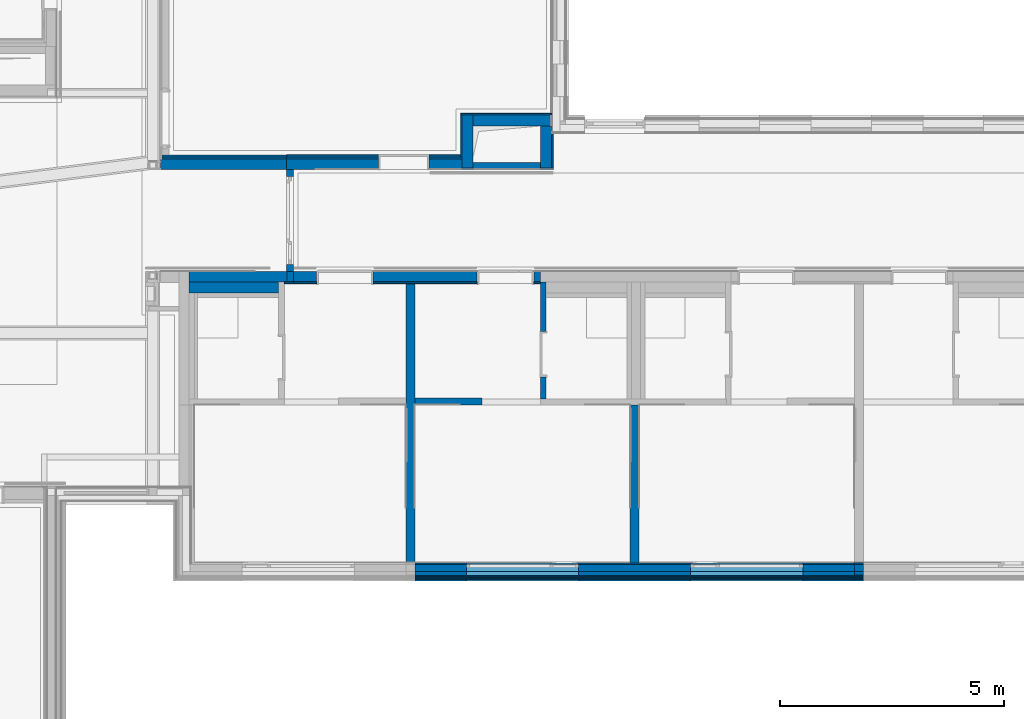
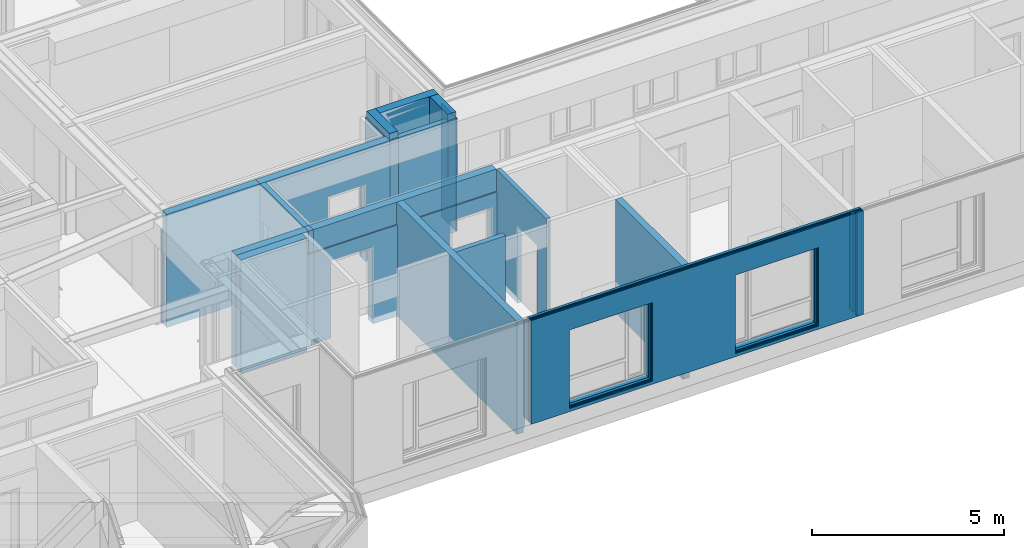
# One storey, part 45 of 207: 40 walls, 23 openings.
"""IFC4 building model written with IfcOpenShell, lengths in metres."""

from ifc_helpers import new_model, entity, si_unit, converted_unit, derived_unit, frame, frame_2d, origin, origin_with_axes, place, context, subcontext, project, spatial, polyline, rectangle, outline, extrude, material, element, save


model = new_model("IFC4")

# Units and contexts
model_context = context("Model", 3, precision=1e-05, world=origin())
body_context = subcontext(model_context, "Body", "Model", "MODEL_VIEW")
ifc_project = project(units=[si_unit("LENGTHUNIT", "METRE"), si_unit("AREAUNIT", "SQUARE_METRE"), si_unit("VOLUMEUNIT", "CUBIC_METRE"), si_unit("MASSUNIT", "GRAM", prefix="KILO"), converted_unit("PLANEANGLEUNIT", "DEGREE", entity("IfcPlaneAngleMeasure", 0.0174532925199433), si_unit("PLANEANGLEUNIT", "RADIAN"), dimensions=[0, 0, 0, 0, 0, 0, 0]), derived_unit("THERMALTRANSMITTANCEUNIT", [(si_unit("POWERUNIT", "WATT"), 1), (si_unit("THERMODYNAMICTEMPERATUREUNIT", "KELVIN"), -1), (si_unit("LENGTHUNIT", "METRE"), -2)]), derived_unit("VOLUMETRICFLOWRATEUNIT", [(si_unit("LENGTHUNIT", "METRE"), 3), (converted_unit("TIMEUNIT", "hour", entity("IfcTimeMeasure", 3600.0), si_unit("TIMEUNIT", "SECOND"), dimensions=[0, 0, 1, 0, 0, 0, 0]), -1), (si_unit("LENGTHUNIT", "METRE"), -1)])], contexts=[model_context])

# Site, building, storey
site_placement = place(None, origin())
site = spatial("IfcSite", under=ifc_project, at=site_placement, Name="Psychiatrie Neubau Wunstorf", CompositionType="ELEMENT")
building_placement = place(site_placement, origin())
building = spatial("IfcBuilding", under=site, at=building_placement, Name="Neubau H2 Stationsgebäude", CompositionType="ELEMENT")
storey_placement = place(building_placement, frame((0.0, 0.0, -0.2)))
storey = spatial("IfcBuildingStorey", under=building, at=storey_placement, Name="H2 Ebene 0", CompositionType="ELEMENT", Elevation=-0.2)

# Walls
ifc_material_1 = material(Name="WA-LB")
wall_1_placement = place(storey_placement, frame((86.1, -1.16399999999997, 0.5), z_axis=(0.0, 0.0, 1.0), x_axis=(-1.0, 0.0, 0.0)))
element("IfcWall", 1, at=wall_1_placement, inside=storey, material=ifc_material_1, context=body_context, shape_type="SweptSolid", body=[
    extrude(rectangle(XDim=0.2, YDim=0.036, at=frame_2d((0.1, 0.018), x_axis=(1.0, 0.0))), origin_with_axes(), (0.0, 0.0, 1.0), 3.1),
])
ifc_material_2 = material(Name="WA-HD")
wall_2_placement = place(storey_placement, frame((86.1, -1.19999999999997, 0.5), z_axis=(0.0, 0.0, 1.0), x_axis=(-1.0, 0.0, 0.0)))
element("IfcWall", 2, at=wall_2_placement, inside=storey, material=ifc_material_2, context=body_context, shape_type="SweptSolid", body=[
    extrude(rectangle(XDim=0.2, YDim=0.16, at=frame_2d((0.1, 0.08), x_axis=(1.0, 0.0))), origin_with_axes(), (0.0, 0.0, 1.0), 3.1),
])
ifc_material_3 = material(Name="WA-DL")
wall_3_placement = place(storey_placement, frame((86.1, -1.35999999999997, 0.5), z_axis=(0.0, 0.0, 1.0), x_axis=(-1.0, 0.0, 0.0)))
element("IfcWall", 3, at=wall_3_placement, inside=storey, material=ifc_material_3, context=body_context, shape_type="SweptSolid", body=[
    extrude(rectangle(XDim=0.2, YDim=0.08, at=frame_2d((0.1, 0.04), x_axis=(1.0, 0.0))), origin_with_axes(), (0.0, 0.0, 1.0), 3.3),
])
ifc_material_4 = material(Name="WA-TP")
wall_4_placement = place(storey_placement, frame((86.1, -1.43999999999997, 0.5), z_axis=(0.0, 0.0, 1.0), x_axis=(-1.0, 0.0, 0.0)))
element("IfcWall", 4, at=wall_4_placement, inside=storey, material=ifc_material_4, context=body_context, shape_type="SweptSolid", body=[
    extrude(rectangle(XDim=0.2, YDim=0.036, at=frame_2d((0.1, 0.018), x_axis=(1.0, 0.0))), origin_with_axes(), (0.0, 0.0, 1.0), 3.3),
])
ifc_material_5 = material(Name="WA-KL")
wall_5_placement = place(storey_placement, frame((86.1, -1.47599999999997, 0.5), z_axis=(0.0, 0.0, 1.0), x_axis=(-1.0, 0.0, 0.0)))
element("IfcWall", 5, at=wall_5_placement, inside=storey, material=ifc_material_5, context=body_context, shape_type="SweptSolid", body=[
    extrude(rectangle(XDim=0.2, YDim=0.024, at=frame_2d((0.1, 0.012), x_axis=(1.0, 0.0))), origin_with_axes(), (0.0, 0.0, 1.0), 3.3),
])
ifc_material_6 = material(Name="WA-TL")
wall_6_placement = place(storey_placement, frame((86.1, -1.49999999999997, 0.5), z_axis=(0.0, 0.0, 1.0), x_axis=(-1.0, 0.0, 0.0)))
element("IfcWall", 6, at=wall_6_placement, inside=storey, material=ifc_material_6, context=body_context, shape_type="SweptSolid", body=[
    extrude(rectangle(XDim=0.2, YDim=0.024, at=frame_2d((0.1, 0.012), x_axis=(1.0, 0.0))), origin_with_axes(), (0.0, 0.0, 1.0), 3.3),
])
ifc_material_7 = material(Name="WA-HS")
wall_7_placement = place(storey_placement, frame((86.1, -1.52399999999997, 0.5), z_axis=(0.0, 0.0, 1.0), x_axis=(-1.0, 0.0, 0.0)))
element("IfcWall", 7, at=wall_7_placement, inside=storey, material=ifc_material_7, context=body_context, shape_type="SweptSolid", body=[
    extrude(rectangle(XDim=0.2, YDim=0.042, at=frame_2d((0.1, 0.021), x_axis=(1.0, 0.0))), origin_with_axes(), (0.0, 0.0, 1.0), 3.3),
])

# Wall, openings
ifc_material_8 = material(Name="WA-LB")
wall_8_placement = place(storey_placement, frame((85.9, -1.16399999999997, 0.5), z_axis=(0.0, 0.0, 1.0), x_axis=(-1.0, 7.42444654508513e-16, 0.0)))
wall_8 = element("IfcWall", 8, at=wall_8_placement, inside=storey, material=ifc_material_8, context=body_context, shape_type="SweptSolid", body=[
    extrude(rectangle(XDim=9.8, YDim=0.036, at=frame_2d((4.9, 0.018), x_axis=(1.0, 0.0))), origin_with_axes(), (0.0, 0.0, 1.0), 3.1),
])
opening_1_placement = place(wall_8_placement, frame((1.14999995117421, 0.0, 0.1), z_axis=(0.0, 1.0, 0.0), x_axis=(0.0, 0.0, 1.0)))
element("IfcOpeningElement", 9, at=opening_1_placement, cuts=wall_8, Name="Fensteröffnung", ObjectType="Opening", context=body_context, shape_type="SweptSolid", body=[
    extrude(outline(polyline([(2.5, 2.5), (2.5, 0.0), (0.0, 0.0), (0.0, 2.5), (2.5, 2.5)])), origin_with_axes(), (0.0, 0.0, 1.0), 0.036),
])
opening_2_placement = place(wall_8_placement, frame((6.14999995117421, 0.0, 0.1), z_axis=(0.0, 1.0, 0.0), x_axis=(0.0, 0.0, 1.0)))
element("IfcOpeningElement", 10, at=opening_2_placement, cuts=wall_8, Name="Fensteröffnung", ObjectType="Opening", context=body_context, shape_type="SweptSolid", body=[
    extrude(outline(polyline([(2.5, 2.5), (2.5, 0.0), (0.0, 0.0), (0.0, 2.5), (2.5, 2.5)])), origin_with_axes(), (0.0, 0.0, 1.0), 0.036),
])

ifc_material_9 = material(Name="WA-HD")
wall_9_placement = place(storey_placement, frame((85.9, -1.19999999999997, 0.5), z_axis=(0.0, 0.0, 1.0), x_axis=(-1.0, 7.42444654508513e-16, 0.0)))
wall_9 = element("IfcWall", 11, at=wall_9_placement, inside=storey, material=ifc_material_9, context=body_context, shape_type="SweptSolid", body=[
    extrude(rectangle(XDim=9.8, YDim=0.16, at=frame_2d((4.9, 0.08), x_axis=(1.0, 0.0))), origin_with_axes(), (0.0, 0.0, 1.0), 3.1),
])
opening_3_placement = place(wall_9_placement, frame((1.14999995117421, 0.0, 0.1), z_axis=(-1.4210854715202e-15, 1.0, 0.0), x_axis=(0.0, 0.0, 1.0)))
element("IfcOpeningElement", 12, at=opening_3_placement, cuts=wall_9, Name="Fensteröffnung", ObjectType="Opening", context=body_context, shape_type="SweptSolid", body=[
    extrude(outline(polyline([(2.5, 2.5), (2.5, 0.0), (0.0, 0.0), (0.0, 2.5), (2.5, 2.5)])), origin_with_axes(), (0.0, 0.0, 1.0), 0.16),
])
opening_4_placement = place(wall_9_placement, frame((6.14999995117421, 0.0, 0.1), z_axis=(0.0, 1.0, 0.0), x_axis=(0.0, 0.0, 1.0)))
element("IfcOpeningElement", 13, at=opening_4_placement, cuts=wall_9, Name="Fensteröffnung", ObjectType="Opening", context=body_context, shape_type="SweptSolid", body=[
    extrude(outline(polyline([(2.5, 2.5), (2.5, 0.0), (0.0, 0.0), (0.0, 2.5), (2.5, 2.5)])), origin_with_axes(), (0.0, 0.0, 1.0), 0.16),
])

ifc_material_10 = material(Name="WA-DL")
wall_10_placement = place(storey_placement, frame((85.9, -1.35999999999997, 0.5), z_axis=(0.0, 0.0, 1.0), x_axis=(-1.0, 7.42444654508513e-16, 0.0)))
wall_10 = element("IfcWall", 14, at=wall_10_placement, inside=storey, material=ifc_material_10, context=body_context, shape_type="SweptSolid", body=[
    extrude(rectangle(XDim=9.8, YDim=0.08, at=frame_2d((4.9, 0.04), x_axis=(1.0, 0.0))), origin_with_axes(), (0.0, 0.0, 1.0), 3.3),
])
opening_5_placement = place(wall_10_placement, frame((1.14999995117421, 0.0, 0.1), z_axis=(0.0, 1.0, 0.0), x_axis=(0.0, 0.0, 1.0)))
element("IfcOpeningElement", 15, at=opening_5_placement, cuts=wall_10, Name="Fensteröffnung", ObjectType="Opening", context=body_context, shape_type="SweptSolid", body=[
    extrude(outline(polyline([(2.5, 2.5), (2.5, 0.0), (0.0, 0.0), (0.0, 2.5), (2.5, 2.5)])), origin_with_axes(), (0.0, 0.0, 1.0), 0.08),
])
opening_6_placement = place(wall_10_placement, frame((6.14999995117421, 0.0, 0.1), z_axis=(0.0, 1.0, 0.0), x_axis=(0.0, 0.0, 1.0)))
element("IfcOpeningElement", 16, at=opening_6_placement, cuts=wall_10, Name="Fensteröffnung", ObjectType="Opening", context=body_context, shape_type="SweptSolid", body=[
    extrude(outline(polyline([(2.5, 2.5), (2.5, 0.0), (0.0, 0.0), (0.0, 2.5), (2.5, 2.5)])), origin_with_axes(), (0.0, 0.0, 1.0), 0.08),
])

ifc_material_11 = material(Name="WA-TP")
wall_11_placement = place(storey_placement, frame((85.9, -1.43999999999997, 0.5), z_axis=(0.0, 0.0, 1.0), x_axis=(-1.0, 7.42444654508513e-16, 0.0)))
wall_11 = element("IfcWall", 17, at=wall_11_placement, inside=storey, material=ifc_material_11, context=body_context, shape_type="SweptSolid", body=[
    extrude(rectangle(XDim=9.8, YDim=0.036, at=frame_2d((4.9, 0.018), x_axis=(1.0, 0.0))), origin_with_axes(), (0.0, 0.0, 1.0), 3.3),
])
opening_7_placement = place(wall_11_placement, frame((1.14999995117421, 0.0, 0.1), z_axis=(0.0, 1.0, 0.0), x_axis=(0.0, 0.0, 1.0)))
element("IfcOpeningElement", 18, at=opening_7_placement, cuts=wall_11, Name="Fensteröffnung", ObjectType="Opening", context=body_context, shape_type="SweptSolid", body=[
    extrude(outline(polyline([(2.5, 2.5), (2.5, 0.0), (0.0, 0.0), (0.0, 2.5), (2.5, 2.5)])), origin_with_axes(), (0.0, 0.0, 1.0), 0.036),
])
opening_8_placement = place(wall_11_placement, frame((6.14999995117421, 0.0, 0.1), z_axis=(0.0, 1.0, 0.0), x_axis=(0.0, 0.0, 1.0)))
element("IfcOpeningElement", 19, at=opening_8_placement, cuts=wall_11, Name="Fensteröffnung", ObjectType="Opening", context=body_context, shape_type="SweptSolid", body=[
    extrude(outline(polyline([(2.5, 2.5), (2.5, 0.0), (0.0, 0.0), (0.0, 2.5), (2.5, 2.5)])), origin_with_axes(), (0.0, 0.0, 1.0), 0.036),
])

ifc_material_12 = material(Name="WA-KL")
wall_12_placement = place(storey_placement, frame((85.9, -1.47599999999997, 0.5), z_axis=(0.0, 0.0, 1.0), x_axis=(-1.0, 7.42444654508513e-16, 0.0)))
wall_12 = element("IfcWall", 20, at=wall_12_placement, inside=storey, material=ifc_material_12, context=body_context, shape_type="SweptSolid", body=[
    extrude(rectangle(XDim=9.8, YDim=0.024, at=frame_2d((4.9, 0.012), x_axis=(1.0, 0.0))), origin_with_axes(), (0.0, 0.0, 1.0), 3.3),
])
opening_9_placement = place(wall_12_placement, frame((1.14999995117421, 0.0, 0.1), z_axis=(0.0, 1.0, 0.0), x_axis=(0.0, 0.0, 1.0)))
element("IfcOpeningElement", 21, at=opening_9_placement, cuts=wall_12, Name="Fensteröffnung", ObjectType="Opening", context=body_context, shape_type="SweptSolid", body=[
    extrude(outline(polyline([(2.5, 2.5), (2.5, 0.0), (0.0, 0.0), (0.0, 2.5), (2.5, 2.5)])), origin_with_axes(), (0.0, 0.0, 1.0), 0.024),
])
opening_10_placement = place(wall_12_placement, frame((6.14999995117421, 0.0, 0.1), z_axis=(0.0, 1.0, 0.0), x_axis=(0.0, 0.0, 1.0)))
element("IfcOpeningElement", 22, at=opening_10_placement, cuts=wall_12, Name="Fensteröffnung", ObjectType="Opening", context=body_context, shape_type="SweptSolid", body=[
    extrude(outline(polyline([(2.5, 2.5), (2.5, 0.0), (0.0, 0.0), (0.0, 2.5), (2.5, 2.5)])), origin_with_axes(), (0.0, 0.0, 1.0), 0.024),
])

ifc_material_13 = material(Name="WA-TL")
wall_13_placement = place(storey_placement, frame((85.9, -1.49999999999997, 0.5), z_axis=(0.0, 0.0, 1.0), x_axis=(-1.0, 7.42444654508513e-16, 0.0)))
wall_13 = element("IfcWall", 23, at=wall_13_placement, inside=storey, material=ifc_material_13, context=body_context, shape_type="SweptSolid", body=[
    extrude(rectangle(XDim=9.8, YDim=0.024, at=frame_2d((4.9, 0.012), x_axis=(1.0, 0.0))), origin_with_axes(), (0.0, 0.0, 1.0), 3.3),
])
opening_11_placement = place(wall_13_placement, frame((6.14999995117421, 0.0, 0.1), z_axis=(0.0, 1.0, 0.0), x_axis=(0.0, 0.0, 1.0)))
element("IfcOpeningElement", 24, at=opening_11_placement, cuts=wall_13, Name="Fensteröffnung", ObjectType="Opening", context=body_context, shape_type="SweptSolid", body=[
    extrude(outline(polyline([(2.5, 2.5), (2.5, 0.0), (0.0, 0.0), (0.0, 2.5), (2.5, 2.5)])), origin_with_axes(), (0.0, 0.0, 1.0), 0.024),
])
opening_12_placement = place(wall_13_placement, frame((1.14999995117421, 0.0, 0.1), z_axis=(0.0, 1.0, 0.0), x_axis=(0.0, 0.0, 1.0)))
element("IfcOpeningElement", 25, at=opening_12_placement, cuts=wall_13, Name="Fensteröffnung", ObjectType="Opening", context=body_context, shape_type="SweptSolid", body=[
    extrude(outline(polyline([(2.5, 2.5), (2.5, 0.0), (0.0, 0.0), (0.0, 2.5), (2.5, 2.5)])), origin_with_axes(), (0.0, 0.0, 1.0), 0.024),
])

ifc_material_14 = material(Name="WA-HS")
wall_14_placement = place(storey_placement, frame((85.9, -1.52399999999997, 0.5), z_axis=(0.0, 0.0, 1.0), x_axis=(-1.0, 7.42444654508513e-16, 0.0)))
wall_14 = element("IfcWall", 26, at=wall_14_placement, inside=storey, material=ifc_material_14, context=body_context, shape_type="SweptSolid", body=[
    extrude(rectangle(XDim=9.8, YDim=0.042, at=frame_2d((4.9, 0.021), x_axis=(1.0, 0.0))), origin_with_axes(), (0.0, 0.0, 1.0), 3.3),
])
opening_13_placement = place(wall_14_placement, frame((6.14999995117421, 0.0, 0.1), z_axis=(0.0, 1.0, 0.0), x_axis=(0.0, 0.0, 1.0)))
element("IfcOpeningElement", 27, at=opening_13_placement, cuts=wall_14, Name="Fensteröffnung", ObjectType="Opening", context=body_context, shape_type="SweptSolid", body=[
    extrude(outline(polyline([(2.5, 2.5), (2.5, 0.0), (0.0, 0.0), (0.0, 2.5), (2.5, 2.5)])), origin_with_axes(), (0.0, 0.0, 1.0), 0.042),
])
opening_14_placement = place(wall_14_placement, frame((1.14999995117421, 0.0, 0.1), z_axis=(0.0, 1.0, 0.0), x_axis=(0.0, 0.0, 1.0)))
element("IfcOpeningElement", 28, at=opening_14_placement, cuts=wall_14, Name="Fensteröffnung", ObjectType="Opening", context=body_context, shape_type="SweptSolid", body=[
    extrude(outline(polyline([(2.5, 2.5), (2.5, 0.0), (0.0, 0.0), (0.0, 2.5), (2.5, 2.5)])), origin_with_axes(), (0.0, 0.0, 1.0), 0.042),
])

# Wall, opening
ifc_material_15 = material(Name="WI-LB")
wall_15_placement = place(storey_placement, frame((78.9, 5.1005, 0.0), z_axis=(0.0, 0.0, 1.0), x_axis=(0.0, -1.0, 0.0)))
wall_15 = element("IfcWall", 29, at=wall_15_placement, inside=storey, material=ifc_material_15, context=body_context, shape_type="SweptSolid", body=[
    extrude(rectangle(XDim=2.615, YDim=0.125, at=frame_2d((1.3075, 0.0625), x_axis=(1.0, 0.0))), origin_with_axes(), (0.0, 0.0, 1.0), 3.6),
])
opening_15_placement = place(wall_15_placement, frame((2.115, 0.125, 0.0), z_axis=(0.0, -1.0, 0.0), x_axis=(0.0, 0.0, 1.0)))
element("IfcOpeningElement", 30, at=opening_15_placement, cuts=wall_15, Name="Türöffnung", ObjectType="Opening", context=body_context, shape_type="SweptSolid", body=[
    extrude(outline(polyline([(2.46, 1.01), (2.46, 0.0), (0.0, 0.0), (0.0, 1.01), (2.46, 1.01)])), origin_with_axes(), (0.0, 0.0, 1.0), 0.125),
])

# Walls
ifc_material_16 = material(Name="WI-STB")
wall_16_placement = place(storey_placement, frame((79.15, 7.6375, 0.0), z_axis=(0.0, 0.0, 1.0), x_axis=(0.0, 1.0, 0.0)))
element("IfcWall", 31, at=wall_16_placement, inside=storey, material=ifc_material_16, context=body_context, shape_type="SweptSolid", body=[
    extrude(rectangle(XDim=0.9375, YDim=0.25, at=frame_2d((0.46875, 0.125), x_axis=(1.0, 0.0))), origin_with_axes(), (0.0, 0.0, 1.0), 3.8),
])
ifc_material_17 = material(Name="WI-LB")
wall_17_placement = place(storey_placement, frame((75.9, 5.1005, 0.0), z_axis=(0.0, 0.0, 1.0), x_axis=(0.0, -1.0, 0.0)))
element("IfcWall", 32, at=wall_17_placement, inside=storey, material=ifc_material_17, context=body_context, shape_type="SweptSolid", body=[
    extrude(rectangle(XDim=6.2645, YDim=0.2, at=frame_2d((3.13225, 0.1), x_axis=(1.0, 0.0))), origin_with_axes(), (0.0, 0.0, 1.0), 3.6),
])
ifc_material_18 = material(Name="WI-LB")
wall_18_placement = place(storey_placement, frame((80.9, 2.3605, 0.0), z_axis=(0.0, 0.0, 1.0), x_axis=(0.0, -1.0, 0.0)))
element("IfcWall", 33, at=wall_18_placement, inside=storey, material=ifc_material_18, context=body_context, shape_type="SweptSolid", body=[
    extrude(rectangle(XDim=3.5245, YDim=0.2, at=frame_2d((1.76225, 0.1), x_axis=(1.0, 0.0))), origin_with_axes(), (0.0, 0.0, 1.0), 3.6),
])
ifc_material_19 = material(Name="WI-STB")
wall_19_placement = place(storey_placement, frame((77.4, 7.6375, 0.0), z_axis=(0.0, 0.0, 1.0), x_axis=(0.0, 1.0, 0.0)))
element("IfcWall", 34, at=wall_19_placement, inside=storey, material=ifc_material_19, context=body_context, shape_type="SweptSolid", body=[
    extrude(rectangle(XDim=1.1875, YDim=0.25, at=frame_2d((0.59375, 0.125), x_axis=(1.0, 0.0))), origin_with_axes(), (0.0, 0.0, 1.0), 3.8),
])
ifc_material_20 = material(Name="WI-LB")
wall_20_placement = place(storey_placement, frame((77.6, 2.51050000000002, 0.0), z_axis=(0.0, 0.0, 1.0), x_axis=(-1.0, 0.0, 0.0)))
element("IfcWall", 35, at=wall_20_placement, inside=storey, material=ifc_material_20, context=body_context, shape_type="SweptSolid", body=[
    extrude(rectangle(XDim=1.5, YDim=0.15, at=frame_2d((0.75, 0.075), x_axis=(1.0, 0.0))), origin_with_axes(), (0.0, 0.0, 1.0), 3.6),
])
ifc_material_21 = material(Name="WI-HW 60")
wall_21_placement = place(storey_placement, frame((73.2475, 5.3325, 0.0), z_axis=(0.0, 0.0, 1.0), x_axis=(-1.0, 0.0, 0.0)))
element("IfcWall", 36, at=wall_21_placement, inside=storey, material=ifc_material_21, context=body_context, shape_type="SweptSolid", body=[
    extrude(rectangle(XDim=2.18, YDim=0.232, at=frame_2d((1.09, 0.116), x_axis=(1.0, 0.0))), origin_with_axes(), (0.0, 0.0, 1.0), 3.6),
])
ifc_material_22 = material(Name="WI-LB")
wall_22_placement = place(storey_placement, frame((79.15, 8.85499963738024, 0.0), z_axis=(0.0, 0.0, 1.0), x_axis=(-1.0, 0.0, 0.0)))
element("IfcWall", 37, at=wall_22_placement, inside=storey, material=ifc_material_22, context=body_context, shape_type="SweptSolid", body=[
    extrude(rectangle(XDim=2.02999963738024, YDim=0.0299996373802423, at=frame_2d((1.01499981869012, 0.0149998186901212), x_axis=(1.0, 0.0))), origin_with_axes(), (0.0, 0.0, 1.0), 3.6),
])
ifc_material_23 = material(Name="WI-STB")
wall_23_placement = place(storey_placement, frame((79.15, 8.825, 0.0), z_axis=(0.0, 0.0, 1.0), x_axis=(-1.0, 0.0, 0.0)))
element("IfcWall", 38, at=wall_23_placement, inside=storey, material=ifc_material_23, context=body_context, shape_type="SweptSolid", body=[
    extrude(rectangle(XDim=1.75, YDim=0.25, at=frame_2d((0.875, 0.125), x_axis=(1.0, 0.0))), origin_with_axes(), (0.0, 0.0, 1.0), 3.8),
])
ifc_material_24 = material(Name="WI-LB")
wall_24_placement = place(storey_placement, frame((77.15, 7.8895, 0.0), z_axis=(0.0, 0.0, 1.0), x_axis=(0.0, 1.0, 0.0)))
element("IfcWall", 39, at=wall_24_placement, inside=storey, material=ifc_material_24, context=body_context, shape_type="SweptSolid", body=[
    extrude(rectangle(XDim=0.9355, YDim=0.0299996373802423, at=frame_2d((0.46775, 0.0149998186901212), x_axis=(1.0, 0.0))), origin_with_axes(), (0.0, 0.0, 1.0), 3.6),
])
ifc_material_25 = material(Name="WI-LB")
wall_25_placement = place(storey_placement, frame((79.15, 8.414, 0.0), z_axis=(0.0, 0.0, 1.0), x_axis=(0.0, -1.0, 0.0)))
element("IfcWall", 40, at=wall_25_placement, inside=storey, material=ifc_material_25, context=body_context, shape_type="SweptSolid", body=[
    extrude(rectangle(XDim=0.7765, YDim=0.0299996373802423, at=frame_2d((0.38825, 0.0149998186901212), x_axis=(1.0, 0.0))), origin_with_axes(), (0.0, 0.0, 1.0), 3.6),
])
ifc_material_26 = material(Name="WI-LB")
wall_26_placement = place(storey_placement, frame((77.15, 7.60750036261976, 0.0)))
element("IfcWall", 41, at=wall_26_placement, inside=storey, material=ifc_material_26, context=body_context, shape_type="SweptSolid", body=[
    extrude(rectangle(XDim=0.25, YDim=0.0299996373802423, at=frame_2d((0.125, 0.0149998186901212), x_axis=(1.0, 0.0))), origin_with_axes(), (0.0, 0.0, 1.0), 3.6),
])
ifc_material_27 = material(Name="WI-LB")
wall_27_placement = place(storey_placement, frame((78.9, 7.60750036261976, 0.0)))
element("IfcWall", 42, at=wall_27_placement, inside=storey, material=ifc_material_27, context=body_context, shape_type="SweptSolid", body=[
    extrude(rectangle(XDim=0.279999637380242, YDim=0.0299996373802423, at=frame_2d((0.139999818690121, 0.0149998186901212), x_axis=(1.0, 0.0))), origin_with_axes(), (0.0, 0.0, 1.0), 3.6),
])
ifc_material_28 = material(Name="WI-HW 60")
wall_28_placement = place(storey_placement, frame((73.3949999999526, 5.3325, 0.0), z_axis=(0.0, 0.0, 1.0), x_axis=(-1.0, 0.0, 0.0)))
element("IfcWall", 43, at=wall_28_placement, inside=storey, material=ifc_material_28, context=body_context, shape_type="SweptSolid", body=[
    extrude(rectangle(XDim=0.14749999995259, YDim=0.232, at=frame_2d((0.0737499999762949, 0.116), x_axis=(1.0, 0.0))), origin_with_axes(), (0.0, 0.0, 1.0), 3.6),
])
ifc_material_29 = material(Name="WI-LB")
wall_29_placement = place(storey_placement, frame((73.3949999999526, 5.1005, 0.0), z_axis=(0.0, 0.0, 1.0), x_axis=(-1.0, 0.0, 0.0)))
element("IfcWall", 44, at=wall_29_placement, inside=storey, material=ifc_material_29, context=body_context, shape_type="SweptSolid", body=[
    extrude(rectangle(XDim=0.20749999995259, YDim=0.04, at=frame_2d((0.103749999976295, 0.02), x_axis=(1.0, 0.0))), origin_with_axes(), (0.0, 0.0, 1.0), 2.9),
])

# Wall, openings
ifc_material_30 = material(Name="WI-HW 60")
wall_30_placement = place(storey_placement, frame((78.9, 5.3325, 0.0), z_axis=(0.0, 0.0, 1.0), x_axis=(-1.0, 0.0, 0.0)))
wall_30 = element("IfcWall", 45, at=wall_30_placement, inside=storey, material=ifc_material_30, context=body_context, shape_type="SweptSolid", body=[
    extrude(rectangle(XDim=5.50500000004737, YDim=0.232, at=frame_2d((2.75250000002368, 0.116), x_axis=(1.0, 0.0))), origin_with_axes(), (0.0, 0.0, 1.0), 3.6),
])
opening_16_placement = place(wall_30_placement, frame((0.149999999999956, 0.0, 0.0), z_axis=(0.0, 1.0, 0.0), x_axis=(0.0, 0.0, 1.0)))
element("IfcOpeningElement", 46, at=opening_16_placement, cuts=wall_30, Name="Türöffnung", ObjectType="Opening", context=body_context, shape_type="SweptSolid", body=[
    extrude(outline(polyline([(2.46, 1.26), (2.46, 0.0), (0.0, 0.0), (0.0, 1.26), (2.46, 1.26)])), origin_with_axes(), (0.0, 0.0, 1.0), 0.232),
])
opening_17_placement = place(wall_30_placement, frame((3.72999999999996, 0.0, 0.0), z_axis=(0.0, 1.0, 0.0), x_axis=(0.0, 0.0, 1.0)))
element("IfcOpeningElement", 47, at=opening_17_placement, cuts=wall_30, Name="Türöffnung", ObjectType="Opening", context=body_context, shape_type="SweptSolid", body=[
    extrude(outline(polyline([(2.46, 1.26), (2.46, 0.0), (0.0, 0.0), (0.0, 1.26), (2.46, 1.26)])), origin_with_axes(), (0.0, 0.0, 1.0), 0.232),
])

ifc_material_31 = material(Name="WI-LB")
wall_31_placement = place(storey_placement, frame((78.9, 5.1005, 0.0), z_axis=(0.0, 0.0, 1.0), x_axis=(-1.0, 0.0, 0.0)))
wall_31 = element("IfcWall", 48, at=wall_31_placement, inside=storey, material=ifc_material_31, context=body_context, shape_type="SweptSolid", body=[
    extrude(rectangle(XDim=5.50500000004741, YDim=0.04, at=frame_2d((2.7525000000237, 0.02), x_axis=(1.0, 0.0))), origin_with_axes(), (0.0, 0.0, 1.0), 2.9),
])
opening_18_placement = place(wall_31_placement, frame((0.15, 0.0, 0.0), z_axis=(0.0, 1.0, 0.0), x_axis=(0.0, 0.0, 1.0)))
element("IfcOpeningElement", 49, at=opening_18_placement, cuts=wall_31, Name="Türöffnung", ObjectType="Opening", context=body_context, shape_type="SweptSolid", body=[
    extrude(outline(polyline([(2.46, 1.26), (2.46, 0.0), (0.0, 0.0), (0.0, 1.26), (2.46, 1.26)])), origin_with_axes(), (0.0, 0.0, 1.0), 0.04),
])
opening_19_placement = place(wall_31_placement, frame((3.73, 0.0, 0.0), z_axis=(0.0, 1.0, 0.0), x_axis=(0.0, 0.0, 1.0)))
element("IfcOpeningElement", 50, at=opening_19_placement, cuts=wall_31, Name="Türöffnung", ObjectType="Opening", context=body_context, shape_type="SweptSolid", body=[
    extrude(outline(polyline([(2.46, 1.26), (2.46, 0.0), (0.0, 0.0), (0.0, 1.26), (2.46, 1.26)])), origin_with_axes(), (0.0, 0.0, 1.0), 0.04),
])

# Walls
ifc_material_32 = material(Name="WI-LB")
wall_32_placement = place(storey_placement, frame((73.2399999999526, 7.929, 0.0), z_axis=(0.0, 0.0, 1.0), x_axis=(-1.0, 0.0, 0.0)))
element("IfcWall", 51, at=wall_32_placement, inside=storey, material=ifc_material_32, context=body_context, shape_type="SweptSolid", body=[
    extrude(rectangle(XDim=2.81000000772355, YDim=0.0395, at=frame_2d((1.40500000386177, 0.01975), x_axis=(1.0, 0.0))), origin_with_axes(), (0.0, 0.0, 1.0), 2.95),
])
ifc_material_33 = material(Name="Installationsraum")
wall_33_placement = place(storey_placement, frame((73.2399999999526, 7.8895, 0.0), z_axis=(0.0, 0.0, 1.0), x_axis=(-1.0, 0.0, 0.0)))
element("IfcWall", 52, at=wall_33_placement, inside=storey, material=ifc_material_33, context=body_context, shape_type="SweptSolid", body=[
    extrude(rectangle(XDim=2.81000000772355, YDim=0.05, at=frame_2d((1.40500000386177, 0.025), x_axis=(1.0, 0.0))), origin_with_axes(), (0.0, 0.0, 1.0), 2.95),
])
ifc_material_34 = material(Name="WI-HW 60")
wall_34_placement = place(storey_placement, frame((73.2399999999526, 7.8395, 0.0), z_axis=(0.0, 0.0, 1.0), x_axis=(-1.0, 0.0, 0.0)))
element("IfcWall", 53, at=wall_34_placement, inside=storey, material=ifc_material_34, context=body_context, shape_type="SweptSolid", body=[
    extrude(rectangle(XDim=2.81000000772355, YDim=0.232, at=frame_2d((1.40500000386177, 0.116), x_axis=(1.0, 0.0))), origin_with_axes(), (0.0, 0.0, 1.0), 3.6),
])

# Wall, opening
ifc_material_35 = material(Name="WI-HW 60")
wall_35_placement = place(storey_placement, frame((73.2399999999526, 7.6075, 0.0)))
wall_35 = element("IfcWall", 54, at=wall_35_placement, inside=storey, material=ifc_material_35, context=body_context, shape_type="SweptSolid", body=[
    extrude(rectangle(XDim=3.91000000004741, YDim=0.232, at=frame_2d((1.95500000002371, 0.116), x_axis=(1.0, 0.0))), origin_with_axes(), (0.0, 0.0, 1.0), 3.6),
])
opening_20_placement = place(wall_35_placement, frame((3.18000000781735, 0.232, 0.0), z_axis=(0.0, -1.0, 0.0), x_axis=(0.0, 0.0, 1.0)))
element("IfcOpeningElement", 55, at=opening_20_placement, cuts=wall_35, Name="Türöffnung", ObjectType="Opening", context=body_context, shape_type="SweptSolid", body=[
    extrude(outline(polyline([(2.46, 1.135), (2.46, 0.0), (0.0, 0.0), (0.0, 1.135), (2.46, 1.135)])), origin_with_axes(), (0.0, 0.0, 1.0), 0.232),
])

ifc_material_36 = material(Name="Installationsraum")
wall_36_placement = place(storey_placement, frame((73.2399999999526, 7.8395, 0.0)))
wall_36 = element("IfcWall", 56, at=wall_36_placement, inside=storey, material=ifc_material_36, context=body_context, shape_type="SweptSolid", body=[
    extrude(rectangle(XDim=3.91000000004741, YDim=0.05, at=frame_2d((1.95500000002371, 0.025), x_axis=(1.0, 0.0))), origin_with_axes(), (0.0, 0.0, 1.0), 2.95),
])
opening_21_placement = place(wall_36_placement, frame((3.18000000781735, 0.05, 0.0), z_axis=(0.0, -1.0, 0.0), x_axis=(0.0, 0.0, 1.0)))
element("IfcOpeningElement", 57, at=opening_21_placement, cuts=wall_36, Name="Türöffnung", ObjectType="Opening", context=body_context, shape_type="SweptSolid", body=[
    extrude(outline(polyline([(2.46, 1.135), (2.46, 0.0), (0.0, 0.0), (0.0, 1.135), (2.46, 1.135)])), origin_with_axes(), (0.0, 0.0, 1.0), 0.05),
])

ifc_material_37 = material(Name="WI-LB")
wall_37_placement = place(storey_placement, frame((73.2399999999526, 7.8895, 0.0)))
wall_37 = element("IfcWall", 58, at=wall_37_placement, inside=storey, material=ifc_material_37, context=body_context, shape_type="SweptSolid", body=[
    extrude(rectangle(XDim=3.88000036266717, YDim=0.04, at=frame_2d((1.94000018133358, 0.02), x_axis=(1.0, 0.0))), origin_with_axes(), (0.0, 0.0, 1.0), 2.95),
])
opening_22_placement = place(wall_37_placement, frame((3.18000000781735, 0.04, 0.0), z_axis=(0.0, -1.0, 0.0), x_axis=(0.0, 0.0, 1.0)))
element("IfcOpeningElement", 59, at=opening_22_placement, cuts=wall_37, Name="Türöffnung", ObjectType="Opening", context=body_context, shape_type="SweptSolid", body=[
    extrude(outline(polyline([(2.46, 1.135), (2.46, 0.0), (0.0, 0.0), (0.0, 1.135), (2.46, 1.135)])), origin_with_axes(), (0.0, 0.0, 1.0), 0.04),
])

# Walls
ifc_material_38 = material(Name="WI-LB")
wall_38_placement = place(storey_placement, frame((78.9, 7.7575, 0.0), z_axis=(0.0, 0.0, 1.0), x_axis=(-1.0, 0.0, 0.0)))
element("IfcWall", 60, at=wall_38_placement, inside=storey, material=ifc_material_38, context=body_context, shape_type="SweptSolid", body=[
    extrude(rectangle(XDim=1.5, YDim=0.15, at=frame_2d((0.75, 0.075), x_axis=(1.0, 0.0))), origin_with_axes(), (0.0, 0.0, 1.0), 3.6),
])
ifc_material_39 = material(Name="Installationsraum")
wall_39_placement = place(storey_placement, frame((73.0625, 5.1005, 0.0), z_axis=(0.0, 0.0, 1.0), x_axis=(-1.0, 0.0, 0.0)))
element("IfcWall", 61, at=wall_39_placement, inside=storey, material=ifc_material_39, context=body_context, shape_type="SweptSolid", body=[
    extrude(rectangle(XDim=1.995, YDim=0.25, at=frame_2d((0.9975, 0.125), x_axis=(1.0, 0.0))), origin_with_axes(), (0.0, 0.0, 1.0), 3.6),
])

# Wall, opening
ifc_material_40 = material(Name="WI-LB")
wall_40_placement = place(storey_placement, frame((73.3949999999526, 5.3325, 0.0), z_axis=(0.0, 0.0, 1.0), x_axis=(0.0, 1.0, 0.0)))
wall_40 = element("IfcWall", 62, at=wall_40_placement, inside=storey, material=ifc_material_40, context=body_context, shape_type="SweptSolid", body=[
    extrude(rectangle(XDim=2.275, YDim=0.155, at=frame_2d((1.1375, 0.0775), x_axis=(1.0, 0.0))), origin_with_axes(), (0.0, 0.0, 1.0), 3.6),
])
opening_23_placement = place(wall_40_placement, frame((0.155000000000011, 0.0, 0.0), z_axis=(0.0, 1.0, 0.0), x_axis=(0.0, 0.0, 1.0)))
element("IfcOpeningElement", 63, at=opening_23_placement, cuts=wall_40, Name="Türöffnung", ObjectType="Opening", context=body_context, shape_type="SweptSolid", body=[
    extrude(outline(polyline([(2.46, 1.965), (2.46, 0.0), (0.0, 0.0), (0.0, 1.965), (2.46, 1.965)])), origin_with_axes(), (0.0, 0.0, 1.0), 0.155),
])

save(model, "model.ifc")
